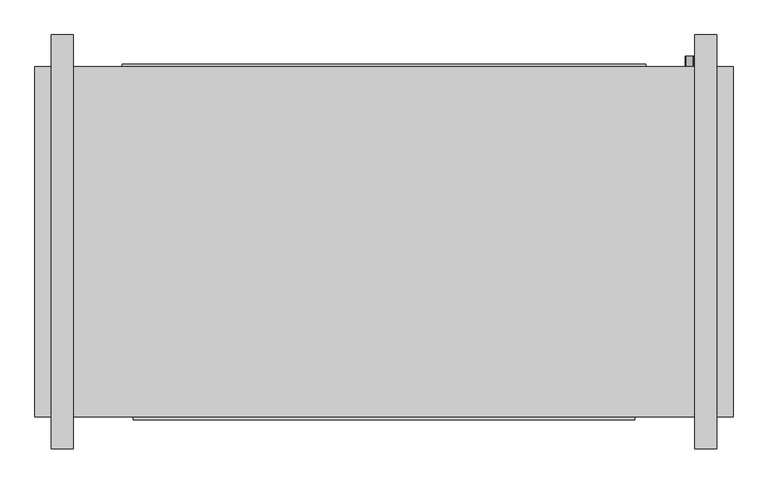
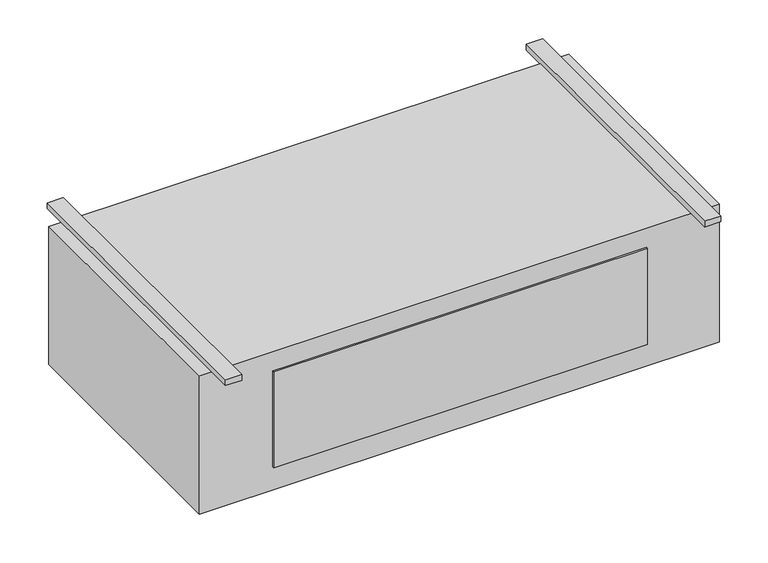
"""IFC4 building model written with IfcOpenShell, lengths in millimetres: proxy geometry, Exposed_High_Capacity_Horizontal_Cabinet_Fan_Coil_Unit_-_42DFA_-_CARRIER_-_2-Pipe_Cool-EHeat_RH_2022 : Size 20 - 277v/60Hz/1Ph - 6 Row 14.0kW."""

from ifc_helpers import new_model, si_unit, point, frame, frame_2d, origin, origin_with_axes, place, context, project, spatial, polyline, circle_curve, trimmed, segment, composite_curve, outline, extrude, source, transform, mapped, element, save


def mechanical_equipment_f485df29(model_context):
    return source(origin(), model_context, "Body", "SweptSolid", [
        extrude(outline(composite_curve([segment(trimmed(circle_curve(frame_2d((-406.4, 863.6)), 9.525), [point((-406.4, 854.075))], [point((-406.4, 873.125))], False, "CARTESIAN"), True, "CONTINUOUS"), segment(trimmed(circle_curve(frame_2d((-406.4, 863.6)), 9.525), [point((-406.4, 873.125))], [point((-406.4, 854.075))], False, "CARTESIAN"), True, "CONTINUOUS")], self_intersect=False)), frame((0.0, 169.8625, 0.0), z_axis=(0.0, 1.0, 0.0), x_axis=(0.0, 0.0, 1.0)), (0.0, 0.0, 1.0), 25.4),
        extrude(outline(composite_curve([segment(trimmed(circle_curve(frame_2d((-330.2, 863.6)), 7.9375), [point((-330.2, 855.6625))], [point((-330.2, 871.5375))], False, "CARTESIAN"), True, "CONTINUOUS"), segment(trimmed(circle_curve(frame_2d((-330.2, 863.6)), 7.9375), [point((-330.2, 871.5375))], [point((-330.2, 855.6625))], False, "CARTESIAN"), True, "CONTINUOUS")], self_intersect=False)), frame((0.0, 169.8625, 0.0), z_axis=(0.0, 1.0, 0.0), x_axis=(0.0, 0.0, 1.0)), (0.0, 0.0, 1.0), 25.4),
        extrude(outline(composite_curve([segment(trimmed(circle_curve(frame_2d((-254.0, 863.6)), 7.9375), [point((-254.0, 855.6625))], [point((-254.0, 871.5375))], False, "CARTESIAN"), True, "CONTINUOUS"), segment(trimmed(circle_curve(frame_2d((-254.0, 863.6)), 7.9375), [point((-254.0, 871.5375))], [point((-254.0, 855.6625))], False, "CARTESIAN"), True, "CONTINUOUS")], self_intersect=False)), frame((0.0, 169.8625, 0.0), z_axis=(0.0, 1.0, 0.0), x_axis=(0.0, 0.0, 1.0)), (0.0, 0.0, 1.0), 25.4),
        extrude(outline(polyline([(965.2, 169.8625), (965.2, -646.1125), (-660.4, -646.1125), (-660.4, 169.8625), (965.2, 169.8625)])), frame((0.0, 0.0, -457.2), z_axis=(0.0, 0.0, 1.0), x_axis=(1.0, 0.0, 0.0)), (0.0, 0.0, 1.0), 457.2),
        extrude(outline(polyline([(-457.2, 176.2125), (762.0, 176.2125), (762.0, 169.8625), (-457.2, 169.8625), (-457.2, 176.2125)])), frame((0.0, 0.0, -381.0), z_axis=(0.0, 0.0, 1.0), x_axis=(1.0, 0.0, 0.0)), (0.0, 0.0, 1.0), 355.6),
        extrude(outline(polyline([(-571.5, 244.475), (-571.5, -720.725), (-622.3, -720.725), (-622.3, 244.475), (-571.5, 244.475)])), origin_with_axes(), (0.0, 0.0, 1.0), 19.05),
        extrude(outline(polyline([(927.1, 244.475), (927.1, -720.725), (876.3, -720.725), (876.3, 244.475), (927.1, 244.475)])), origin_with_axes(), (0.0, 0.0, 1.0), 19.05),
        extrude(outline(polyline([(736.6, -652.4625), (-431.8, -652.4625), (-431.8, -646.1125), (736.6, -646.1125), (736.6, -652.4625)])), frame((0.0, 0.0, -381.0), z_axis=(0.0, 0.0, 1.0), x_axis=(1.0, 0.0, 0.0)), (0.0, 0.0, 1.0), 317.5),
    ])


if __name__ == "__main__":
    model = new_model("IFC4")
    model_context = context("Model", 3, world=origin())
    ifc_project = project(units=[si_unit("LENGTHUNIT", "METRE", prefix="MILLI")], contexts=[model_context])
    site = spatial("IfcSite", under=ifc_project)
    building = spatial("IfcBuilding", under=site)
    placement = place(None, origin())
    mechanical_equipment_shape = mechanical_equipment_f485df29(model_context)
    element("IfcBuildingElementProxy", 1, Name="Exposed_High_Capacity_Horizontal_Cabinet_Fan_Coil_Unit_-_42DFA_-_CARRIER_-_2-Pipe_Cool-EHeat_RH_2022 : Size 20 - 277v/60Hz/1Ph - 6 Row 14.0kW", ObjectType="Exposed_High_Capacity_Horizontal_Cabinet_Fan_Coil_Unit_-_42DFA_-_CARRIER_-_2-Pipe_Cool-EHeat_RH_2022 : Size 20 - 277v/60Hz/1Ph - 6 Row 14.0kW", at=placement, inside=building, context=model_context, shape_type="MappedRepresentation", body=[
        mapped(mechanical_equipment_shape, transform((0.0, 0.0, 0.0), x_axis=(1.0, 0.0, 0.0), y_axis=(0.0, 1.0, 0.0), z_axis=(0.0, 0.0, 1.0))),
    ])
    save(model, "model.ifc")
